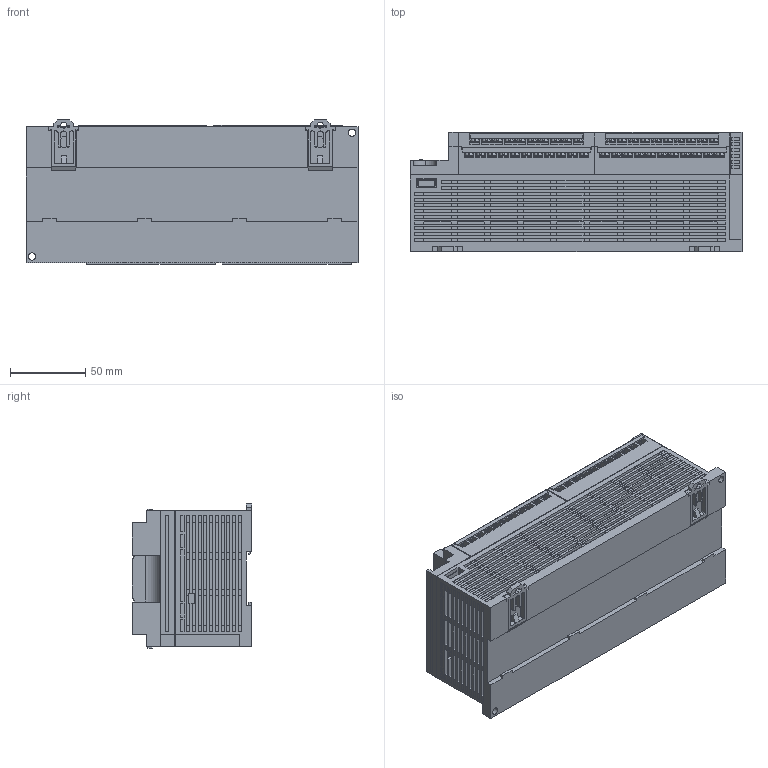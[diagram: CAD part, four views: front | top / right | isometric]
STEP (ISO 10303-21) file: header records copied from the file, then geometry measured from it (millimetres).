
FILE_DESCRIPTION (( 'STEP AP214' ), '1' );
FILE_NAME ('afpx0l60r.step', '2012-02-13T08:05:45', ( '' ), ( '' ), '', '', '' );
FILE_SCHEMA (( 'AUTOMOTIVE_DESIGN' ));
Length unit declared in the file: millimetre
Products named in the file (1): afpx0l60r
Bounding box: 220 x 79 x 95.5 mm (x, y, z)
Volume: 1380822.3 mm3; surface area: 162683.7 mm2
Topology: 1 solids, 1 shells, 4943 faces, 13428 edges, 8748 vertices
Faces by surface type: plane 4388, cylinder 387, torus 168
Entity records: 215141 total; most frequent: CARTESIAN_POINT 36540, ORIENTED_EDGE 26856, DIRECTION 23760, EDGE_CURVE 13428, VECTOR 10960, LINE 10960, VERTEX_POINT 8748, AXIS2_PLACEMENT_3D 6400
